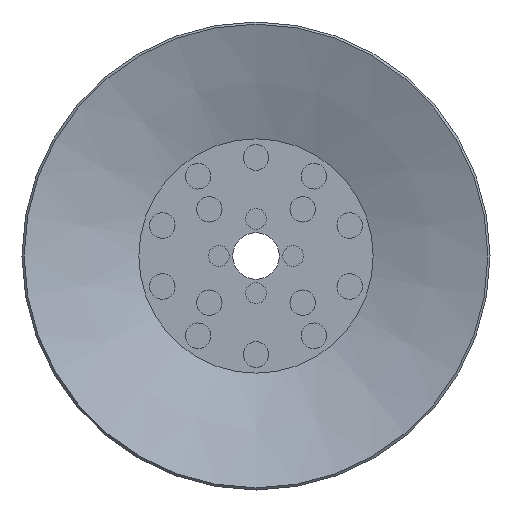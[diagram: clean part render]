
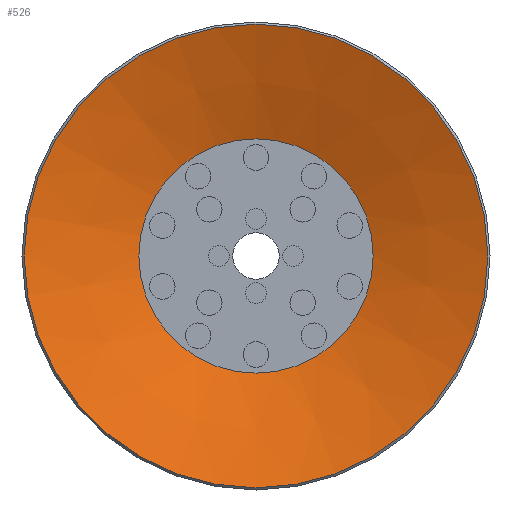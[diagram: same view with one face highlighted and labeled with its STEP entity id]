
A CAD part, front view. The second image highlights one B-rep face of the part: STEP entity #526.
In plain terms, the highlighted conical face has half-angle 70 degrees and reference radius 10 mm.
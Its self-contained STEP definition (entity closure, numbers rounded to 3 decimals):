
#526=ADVANCED_FACE('',(#806,#807),#808,.F.);
#806=FACE_BOUND('',#1269,.T.);
#807=FACE_OUTER_BOUND('',#1270,.T.);
#808=CONICAL_SURFACE('',#1271,10.0,1.222);
#1269=EDGE_LOOP('',(#2238));
#1270=EDGE_LOOP('',(#2239));
#1271=AXIS2_PLACEMENT_3D('',#2240,#2241,#2242);
#2238=ORIENTED_EDGE('',*,*,#2948,.T.);
#2239=ORIENTED_EDGE('',*,*,#2949,.F.);
#2240=CARTESIAN_POINT('',(0.0,0.,0.));
#2241=DIRECTION('',(0.0,0.,-1.0));
#2242=DIRECTION('',(0.0,1.0,0.));
#2948=EDGE_CURVE('',#3301,#3301,#3302,.T.);
#2949=EDGE_CURVE('',#3303,#3303,#3304,.T.);
#3301=VERTEX_POINT('',#4079);
#3302=CIRCLE('',#4080,5.055);
#3303=VERTEX_POINT('',#4081);
#3304=CIRCLE('',#4082,10.0);
#4079=CARTESIAN_POINT('',(0.0,-5.055,1.8));
#4080=AXIS2_PLACEMENT_3D('',#4843,#4844,#4845);
#4081=CARTESIAN_POINT('',(0.0,-10.0,0.));
#4082=AXIS2_PLACEMENT_3D('',#4846,#4847,#4848);
#4843=CARTESIAN_POINT('',(0.0,0.,1.8));
#4844=DIRECTION('',(0.0,0.,1.0));
#4845=DIRECTION('',(0.0,-1.0,0.));
#4846=CARTESIAN_POINT('',(0.0,0.,0.));
#4847=DIRECTION('',(0.0,0.,1.0));
#4848=DIRECTION('',(0.0,-1.0,0.));
